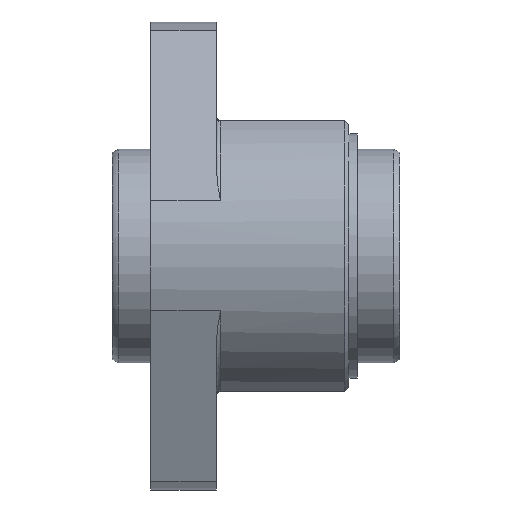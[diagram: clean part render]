
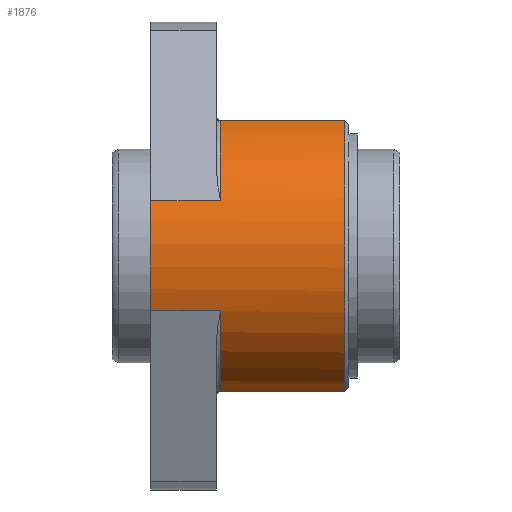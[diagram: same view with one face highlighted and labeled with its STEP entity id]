
A CAD part, top view. The second image highlights one B-rep face of the part: STEP entity #1876.
In plain terms, the highlighted cylindrical face has radius 35 mm (diameter 70 mm), a partial arc.
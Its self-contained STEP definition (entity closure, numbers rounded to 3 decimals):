
#1460=CARTESIAN_POINT('',(17.0,13.394,32.336));
#1461=VERTEX_POINT('',#1460);
#1469=CARTESIAN_POINT('',(17.0,33.0,11.662));
#1470=VERTEX_POINT('',#1469);
#1471=CARTESIAN_POINT('',(17.0,0.0,0.0));
#1472=DIRECTION('',(-1.0,0.0,0.0));
#1473=DIRECTION('',(0.0,0.726,0.688));
#1474=AXIS2_PLACEMENT_3D('',#1471,#1472,#1473);
#1475=CIRCLE('',#1474,35.0);
#1476=EDGE_CURVE('',#1461,#1470,#1475,.T.);
#1672=CARTESIAN_POINT('',(17.0,-33.0,11.662));
#1673=VERTEX_POINT('',#1672);
#1674=CARTESIAN_POINT('',(17.0,-13.394,32.336));
#1675=VERTEX_POINT('',#1674);
#1676=CARTESIAN_POINT('',(17.0,0.0,0.0));
#1677=DIRECTION('',(-1.0,0.0,0.0));
#1678=DIRECTION('',(0.0,-0.726,0.688));
#1679=AXIS2_PLACEMENT_3D('',#1676,#1677,#1678);
#1680=CIRCLE('',#1679,35.0);
#1681=EDGE_CURVE('',#1673,#1675,#1680,.T.);
#1821=CARTESIAN_POINT('',(0.0,0.0,0.0));
#1822=DIRECTION('',(1.0,0.0,0.0));
#1823=DIRECTION('',(0.0,1.0,0.0));
#1824=AXIS2_PLACEMENT_3D('',#1821,#1822,#1823);
#1825=CYLINDRICAL_SURFACE('',#1824,35.0);
#1826=CARTESIAN_POINT('',(0.0,13.394,32.336));
#1827=VERTEX_POINT('',#1826);
#1828=CARTESIAN_POINT('',(0.0,13.394,32.336));
#1829=DIRECTION('',(1.0,0.0,0.0));
#1830=VECTOR('',#1829,17.0);
#1831=LINE('',#1828,#1830);
#1832=EDGE_CURVE('',#1827,#1461,#1831,.T.);
#1833=ORIENTED_EDGE('',*,*,#1832,.F.);
#1834=CARTESIAN_POINT('',(0.0,-13.394,32.336));
#1835=VERTEX_POINT('',#1834);
#1836=CARTESIAN_POINT('',(0.0,0.0,0.0));
#1837=DIRECTION('',(1.0,0.0,0.0));
#1838=DIRECTION('',(0.0,1.0,0.0));
#1839=AXIS2_PLACEMENT_3D('',#1836,#1837,#1838);
#1840=CIRCLE('',#1839,35.0);
#1841=EDGE_CURVE('',#1827,#1835,#1840,.T.);
#1842=ORIENTED_EDGE('',*,*,#1841,.T.);
#1843=CARTESIAN_POINT('',(0.0,-13.394,32.336));
#1844=DIRECTION('',(1.0,0.0,0.0));
#1845=VECTOR('',#1844,17.0);
#1846=LINE('',#1843,#1845);
#1847=EDGE_CURVE('',#1835,#1675,#1846,.T.);
#1848=ORIENTED_EDGE('',*,*,#1847,.T.);
#1849=ORIENTED_EDGE('',*,*,#1681,.F.);
#1850=CARTESIAN_POINT('',(47.3,-33.0,11.662));
#1851=VERTEX_POINT('',#1850);
#1852=CARTESIAN_POINT('',(17.0,-33.0,11.662));
#1853=DIRECTION('',(1.0,0.0,0.0));
#1854=VECTOR('',#1853,30.3);
#1855=LINE('',#1852,#1854);
#1856=EDGE_CURVE('',#1673,#1851,#1855,.T.);
#1857=ORIENTED_EDGE('',*,*,#1856,.T.);
#1858=CARTESIAN_POINT('',(47.3,33.0,11.662));
#1859=VERTEX_POINT('',#1858);
#1860=CARTESIAN_POINT('',(47.3,0.0,0.0));
#1861=DIRECTION('',(1.0,0.0,0.0));
#1862=DIRECTION('',(0.0,1.0,0.0));
#1863=AXIS2_PLACEMENT_3D('',#1860,#1861,#1862);
#1864=CIRCLE('',#1863,35.0);
#1865=EDGE_CURVE('',#1859,#1851,#1864,.T.);
#1866=ORIENTED_EDGE('',*,*,#1865,.F.);
#1867=CARTESIAN_POINT('',(17.0,33.0,11.662));
#1868=DIRECTION('',(1.0,0.0,0.0));
#1869=VECTOR('',#1868,30.3);
#1870=LINE('',#1867,#1869);
#1871=EDGE_CURVE('',#1470,#1859,#1870,.T.);
#1872=ORIENTED_EDGE('',*,*,#1871,.F.);
#1873=ORIENTED_EDGE('',*,*,#1476,.F.);
#1874=EDGE_LOOP('',(#1833,#1842,#1848,#1849,#1857,#1866,#1872,#1873));
#1875=FACE_OUTER_BOUND('',#1874,.T.);
#1876=ADVANCED_FACE('',(#1875),#1825,.T.);
